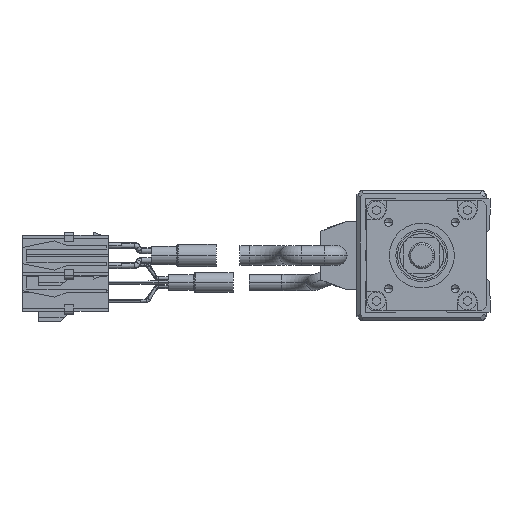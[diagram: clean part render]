
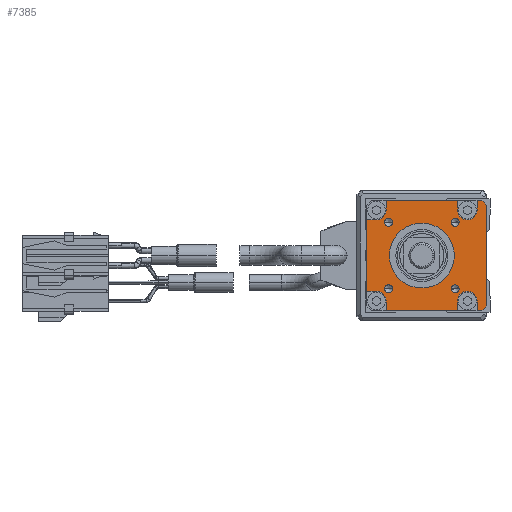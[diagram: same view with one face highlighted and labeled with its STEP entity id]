
A CAD part, left-side view. The second image highlights one B-rep face of the part: STEP entity #7385.
In plain terms, the highlighted planar face has unit normal (-1, 0, 0).
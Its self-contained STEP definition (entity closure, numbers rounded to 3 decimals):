
#1365=DIRECTION('',(0.,1.,0.));
#1366=VECTOR('',#1365,22.);
#1367=CARTESIAN_POINT('',(-177.5,10.,-17.));
#1368=LINE('',#1367,#1366);
#1373=DIRECTION('',(0.,1.,0.));
#1374=VECTOR('',#1373,1.5);
#1375=CARTESIAN_POINT('',(-177.5,2.5,-17.));
#1376=LINE('',#1375,#1374);
#1397=DIRECTION('',(0.,0.,1.));
#1398=VECTOR('',#1397,22.);
#1399=CARTESIAN_POINT('',(-177.5,38.,-11.));
#1400=LINE('',#1399,#1398);
#1421=DIRECTION('',(0.,-1.,0.));
#1422=VECTOR('',#1421,1.5);
#1423=CARTESIAN_POINT('',(-177.5,4.,17.));
#1424=LINE('',#1423,#1422);
#1425=DIRECTION('',(0.,-1.,0.));
#1426=VECTOR('',#1425,22.);
#1427=CARTESIAN_POINT('',(-177.5,32.,17.));
#1428=LINE('',#1427,#1426);
#1441=DIRECTION('',(0.,0.,-1.));
#1442=VECTOR('',#1441,31.);
#1443=CARTESIAN_POINT('',(-177.5,1.,15.5));
#1444=LINE('',#1443,#1442);
#1845=DIRECTION('',(0.,0.707,-0.707));
#1846=VECTOR('',#1845,2.121);
#1847=CARTESIAN_POINT('',(-177.5,1.,-15.5));
#1848=LINE('',#1847,#1846);
#1849=CARTESIAN_POINT('',(-177.5,7.,-14.));
#1850=DIRECTION('',(-1.,0.,0.));
#1851=DIRECTION('',(0.,-1.,0.));
#1852=AXIS2_PLACEMENT_3D('',#1849,#1850,#1851);
#1854=CARTESIAN_POINT('',(-177.5,35.,-14.));
#1855=DIRECTION('',(-1.,0.,0.));
#1856=DIRECTION('',(0.,-1.,0.));
#1857=AXIS2_PLACEMENT_3D('',#1854,#1855,#1856);
#1859=CARTESIAN_POINT('',(-177.5,35.,14.));
#1860=DIRECTION('',(-1.,0.,0.));
#1861=DIRECTION('',(0.,0.,-1.));
#1862=AXIS2_PLACEMENT_3D('',#1859,#1860,#1861);
#1864=CARTESIAN_POINT('',(-177.5,7.,14.));
#1865=DIRECTION('',(-1.,0.,0.));
#1866=DIRECTION('',(0.,1.,0.));
#1867=AXIS2_PLACEMENT_3D('',#1864,#1865,#1866);
#1869=DIRECTION('',(0.,-0.707,-0.707));
#1870=VECTOR('',#1869,2.121);
#1871=CARTESIAN_POINT('',(-177.5,2.5,17.));
#1872=LINE('',#1871,#1870);
#1873=CARTESIAN_POINT('',(-177.5,31.253,-10.253));
#1874=DIRECTION('',(-1.,0.,0.));
#1875=DIRECTION('',(0.,1.,0.));
#1876=AXIS2_PLACEMENT_3D('',#1873,#1874,#1875);
#1878=CARTESIAN_POINT('',(-177.5,31.253,-10.253));
#1879=DIRECTION('',(-1.,0.,0.));
#1880=DIRECTION('',(0.,-1.,0.));
#1881=AXIS2_PLACEMENT_3D('',#1878,#1879,#1880);
#1883=CARTESIAN_POINT('',(-177.5,10.747,-10.253));
#1884=DIRECTION('',(-1.,0.,0.));
#1885=DIRECTION('',(0.,1.,0.));
#1886=AXIS2_PLACEMENT_3D('',#1883,#1884,#1885);
#1888=CARTESIAN_POINT('',(-177.5,10.747,-10.253));
#1889=DIRECTION('',(-1.,0.,0.));
#1890=DIRECTION('',(0.,-1.,0.));
#1891=AXIS2_PLACEMENT_3D('',#1888,#1889,#1890);
#1893=CARTESIAN_POINT('',(-177.5,10.747,10.253));
#1894=DIRECTION('',(-1.,0.,0.));
#1895=DIRECTION('',(0.,1.,0.));
#1896=AXIS2_PLACEMENT_3D('',#1893,#1894,#1895);
#1898=CARTESIAN_POINT('',(-177.5,10.747,10.253));
#1899=DIRECTION('',(-1.,0.,0.));
#1900=DIRECTION('',(0.,-1.,0.));
#1901=AXIS2_PLACEMENT_3D('',#1898,#1899,#1900);
#1903=CARTESIAN_POINT('',(-177.5,31.253,10.253));
#1904=DIRECTION('',(-1.,0.,0.));
#1905=DIRECTION('',(0.,1.,0.));
#1906=AXIS2_PLACEMENT_3D('',#1903,#1904,#1905);
#1908=CARTESIAN_POINT('',(-177.5,31.253,10.253));
#1909=DIRECTION('',(-1.,0.,0.));
#1910=DIRECTION('',(0.,-1.,0.));
#1911=AXIS2_PLACEMENT_3D('',#1908,#1909,#1910);
#1913=CARTESIAN_POINT('',(-177.5,21.,0.));
#1914=DIRECTION('',(-1.,0.,0.));
#1915=DIRECTION('',(0.,-1.,0.));
#1916=AXIS2_PLACEMENT_3D('',#1913,#1914,#1915);
#1918=CARTESIAN_POINT('',(-177.5,21.,0.));
#1919=DIRECTION('',(-1.,0.,0.));
#1920=DIRECTION('',(0.,1.,0.));
#1921=AXIS2_PLACEMENT_3D('',#1918,#1919,#1920);
#1923=DIRECTION('',(0.,0.,-1.));
#1924=VECTOR('',#1923,3.);
#1925=CARTESIAN_POINT('',(-177.5,4.,-14.));
#1926=LINE('',#1925,#1924);
#1950=DIRECTION('',(0.,0.,1.));
#1951=VECTOR('',#1950,3.);
#1952=CARTESIAN_POINT('',(-177.5,10.,-17.));
#1953=LINE('',#1952,#1951);
#2060=DIRECTION('',(0.,0.,-1.));
#2061=VECTOR('',#2060,3.);
#2062=CARTESIAN_POINT('',(-177.5,32.,-14.));
#2063=LINE('',#2062,#2061);
#2091=DIRECTION('',(0.,-1.,0.));
#2092=VECTOR('',#2091,3.);
#2093=CARTESIAN_POINT('',(-177.5,38.,-11.));
#2094=LINE('',#2093,#2092);
#2201=DIRECTION('',(0.,1.,0.));
#2202=VECTOR('',#2201,3.);
#2203=CARTESIAN_POINT('',(-177.5,35.,11.));
#2204=LINE('',#2203,#2202);
#2236=DIRECTION('',(0.,0.,-1.));
#2237=VECTOR('',#2236,3.);
#2238=CARTESIAN_POINT('',(-177.5,32.,17.));
#2239=LINE('',#2238,#2237);
#2346=DIRECTION('',(0.,0.,1.));
#2347=VECTOR('',#2346,3.);
#2348=CARTESIAN_POINT('',(-177.5,10.,14.));
#2349=LINE('',#2348,#2347);
#2377=DIRECTION('',(0.,0.,-1.));
#2378=VECTOR('',#2377,3.);
#2379=CARTESIAN_POINT('',(-177.5,4.,17.));
#2380=LINE('',#2379,#2378);
#4049=CARTESIAN_POINT('',(-177.5,11.,0.));
#4050=CARTESIAN_POINT('',(-177.5,31.,0.));
#4051=VERTEX_POINT('',#4049);
#4052=VERTEX_POINT('',#4050);
#4053=CARTESIAN_POINT('',(-177.5,1.,-15.5));
#4054=CARTESIAN_POINT('',(-177.5,2.5,-17.));
#4055=VERTEX_POINT('',#4053);
#4056=VERTEX_POINT('',#4054);
#4057=CARTESIAN_POINT('',(-177.5,1.,15.5));
#4058=VERTEX_POINT('',#4057);
#4059=CARTESIAN_POINT('',(-177.5,2.5,17.));
#4060=VERTEX_POINT('',#4059);
#4061=CARTESIAN_POINT('',(-177.5,4.,17.));
#4062=VERTEX_POINT('',#4061);
#4063=CARTESIAN_POINT('',(-177.5,4.,14.));
#4064=VERTEX_POINT('',#4063);
#4065=CARTESIAN_POINT('',(-177.5,10.,14.));
#4066=VERTEX_POINT('',#4065);
#4067=CARTESIAN_POINT('',(-177.5,10.,17.));
#4068=VERTEX_POINT('',#4067);
#4069=CARTESIAN_POINT('',(-177.5,32.,17.));
#4070=VERTEX_POINT('',#4069);
#4071=CARTESIAN_POINT('',(-177.5,32.,14.));
#4072=VERTEX_POINT('',#4071);
#4073=CARTESIAN_POINT('',(-177.5,35.,11.));
#4074=VERTEX_POINT('',#4073);
#4075=CARTESIAN_POINT('',(-177.5,38.,11.));
#4076=VERTEX_POINT('',#4075);
#4077=CARTESIAN_POINT('',(-177.5,38.,-11.));
#4078=VERTEX_POINT('',#4077);
#4079=CARTESIAN_POINT('',(-177.5,35.,-11.));
#4080=VERTEX_POINT('',#4079);
#4081=CARTESIAN_POINT('',(-177.5,32.,-14.));
#4082=VERTEX_POINT('',#4081);
#4083=CARTESIAN_POINT('',(-177.5,32.,-17.));
#4084=VERTEX_POINT('',#4083);
#4085=CARTESIAN_POINT('',(-177.5,10.,-17.));
#4086=VERTEX_POINT('',#4085);
#4087=CARTESIAN_POINT('',(-177.5,10.,-14.));
#4088=VERTEX_POINT('',#4087);
#4089=CARTESIAN_POINT('',(-177.5,4.,-14.));
#4090=VERTEX_POINT('',#4089);
#4091=CARTESIAN_POINT('',(-177.5,4.,-17.));
#4092=VERTEX_POINT('',#4091);
#4093=CARTESIAN_POINT('',(-177.5,32.503,-10.253));
#4094=CARTESIAN_POINT('',(-177.5,30.003,-10.253));
#4095=VERTEX_POINT('',#4093);
#4096=VERTEX_POINT('',#4094);
#4097=CARTESIAN_POINT('',(-177.5,11.997,-10.253));
#4098=CARTESIAN_POINT('',(-177.5,9.497,-10.253));
#4099=VERTEX_POINT('',#4097);
#4100=VERTEX_POINT('',#4098);
#4101=CARTESIAN_POINT('',(-177.5,11.997,10.253));
#4102=CARTESIAN_POINT('',(-177.5,9.497,10.253));
#4103=VERTEX_POINT('',#4101);
#4104=VERTEX_POINT('',#4102);
#4105=CARTESIAN_POINT('',(-177.5,32.503,10.253));
#4106=CARTESIAN_POINT('',(-177.5,30.003,10.253));
#4107=VERTEX_POINT('',#4105);
#4108=VERTEX_POINT('',#4106);
#7316=CARTESIAN_POINT('',(-177.5,19.5,0.));
#7317=DIRECTION('',(1.,0.,0.));
#7318=DIRECTION('',(0.,0.,-1.));
#7319=AXIS2_PLACEMENT_3D('',#7316,#7317,#7318);
#7320=PLANE('',#7319);
#7321=ORIENTED_EDGE('',*,*,#6545,.T.);
#7322=ORIENTED_EDGE('',*,*,#6574,.T.);
#7324=ORIENTED_EDGE('',*,*,#7323,.F.);
#7326=ORIENTED_EDGE('',*,*,#7325,.T.);
#7328=ORIENTED_EDGE('',*,*,#7327,.F.);
#7329=ORIENTED_EDGE('',*,*,#6566,.T.);
#7331=ORIENTED_EDGE('',*,*,#7330,.F.);
#7333=ORIENTED_EDGE('',*,*,#7332,.T.);
#7335=ORIENTED_EDGE('',*,*,#7334,.F.);
#7336=ORIENTED_EDGE('',*,*,#6608,.T.);
#7338=ORIENTED_EDGE('',*,*,#7337,.F.);
#7340=ORIENTED_EDGE('',*,*,#7339,.T.);
#7342=ORIENTED_EDGE('',*,*,#7341,.F.);
#7343=ORIENTED_EDGE('',*,*,#6650,.T.);
#7345=ORIENTED_EDGE('',*,*,#7344,.F.);
#7347=ORIENTED_EDGE('',*,*,#7346,.T.);
#7349=ORIENTED_EDGE('',*,*,#7348,.F.);
#7350=ORIENTED_EDGE('',*,*,#6642,.T.);
#7351=ORIENTED_EDGE('',*,*,#6668,.T.);
#7352=ORIENTED_EDGE('',*,*,#6683,.T.);
#7353=EDGE_LOOP('',(#7321,#7322,#7324,#7326,#7328,#7329,#7331,#7333,#7335,#7336,
#7338,#7340,#7342,#7343,#7345,#7347,#7349,#7350,#7351,#7352));
#7354=FACE_OUTER_BOUND('',#7353,.F.);
#7356=ORIENTED_EDGE('',*,*,#7355,.T.);
#7358=ORIENTED_EDGE('',*,*,#7357,.T.);
#7359=EDGE_LOOP('',(#7356,#7358));
#7360=FACE_BOUND('',#7359,.F.);
#7362=ORIENTED_EDGE('',*,*,#7361,.T.);
#7364=ORIENTED_EDGE('',*,*,#7363,.T.);
#7365=EDGE_LOOP('',(#7362,#7364));
#7366=FACE_BOUND('',#7365,.F.);
#7368=ORIENTED_EDGE('',*,*,#7367,.T.);
#7370=ORIENTED_EDGE('',*,*,#7369,.T.);
#7371=EDGE_LOOP('',(#7368,#7370));
#7372=FACE_BOUND('',#7371,.F.);
#7374=ORIENTED_EDGE('',*,*,#7373,.T.);
#7376=ORIENTED_EDGE('',*,*,#7375,.T.);
#7377=EDGE_LOOP('',(#7374,#7376));
#7378=FACE_BOUND('',#7377,.F.);
#7380=ORIENTED_EDGE('',*,*,#7379,.T.);
#7382=ORIENTED_EDGE('',*,*,#7381,.T.);
#7383=EDGE_LOOP('',(#7380,#7382));
#7384=FACE_BOUND('',#7383,.F.);
#7385=ADVANCED_FACE('',(#7354,#7360,#7366,#7372,#7378,#7384),#7320,.F.);
#1853=CIRCLE('',#1852,3.);
#1858=CIRCLE('',#1857,3.);
#1863=CIRCLE('',#1862,3.);
#1868=CIRCLE('',#1867,3.);
#1877=CIRCLE('',#1876,1.25);
#1882=CIRCLE('',#1881,1.25);
#1887=CIRCLE('',#1886,1.25);
#1892=CIRCLE('',#1891,1.25);
#1897=CIRCLE('',#1896,1.25);
#1902=CIRCLE('',#1901,1.25);
#1907=CIRCLE('',#1906,1.25);
#1912=CIRCLE('',#1911,1.25);
#1917=CIRCLE('',#1916,10.);
#1922=CIRCLE('',#1921,10.);
#6545=EDGE_CURVE('',#4055,#4056,#1848,.T.);
#6566=EDGE_CURVE('',#4086,#4084,#1368,.T.);
#6574=EDGE_CURVE('',#4056,#4092,#1376,.T.);
#6608=EDGE_CURVE('',#4078,#4076,#1400,.T.);
#6642=EDGE_CURVE('',#4062,#4060,#1424,.T.);
#6650=EDGE_CURVE('',#4070,#4068,#1428,.T.);
#6668=EDGE_CURVE('',#4060,#4058,#1872,.T.);
#6683=EDGE_CURVE('',#4058,#4055,#1444,.T.);
#7323=EDGE_CURVE('',#4090,#4092,#1926,.T.);
#7325=EDGE_CURVE('',#4090,#4088,#1853,.T.);
#7327=EDGE_CURVE('',#4086,#4088,#1953,.T.);
#7330=EDGE_CURVE('',#4082,#4084,#2063,.T.);
#7332=EDGE_CURVE('',#4082,#4080,#1858,.T.);
#7334=EDGE_CURVE('',#4078,#4080,#2094,.T.);
#7337=EDGE_CURVE('',#4074,#4076,#2204,.T.);
#7339=EDGE_CURVE('',#4074,#4072,#1863,.T.);
#7341=EDGE_CURVE('',#4070,#4072,#2239,.T.);
#7344=EDGE_CURVE('',#4066,#4068,#2349,.T.);
#7346=EDGE_CURVE('',#4066,#4064,#1868,.T.);
#7348=EDGE_CURVE('',#4062,#4064,#2380,.T.);
#7355=EDGE_CURVE('',#4095,#4096,#1877,.T.);
#7357=EDGE_CURVE('',#4096,#4095,#1882,.T.);
#7361=EDGE_CURVE('',#4099,#4100,#1887,.T.);
#7363=EDGE_CURVE('',#4100,#4099,#1892,.T.);
#7367=EDGE_CURVE('',#4103,#4104,#1897,.T.);
#7369=EDGE_CURVE('',#4104,#4103,#1902,.T.);
#7373=EDGE_CURVE('',#4107,#4108,#1907,.T.);
#7375=EDGE_CURVE('',#4108,#4107,#1912,.T.);
#7379=EDGE_CURVE('',#4051,#4052,#1917,.T.);
#7381=EDGE_CURVE('',#4052,#4051,#1922,.T.);
